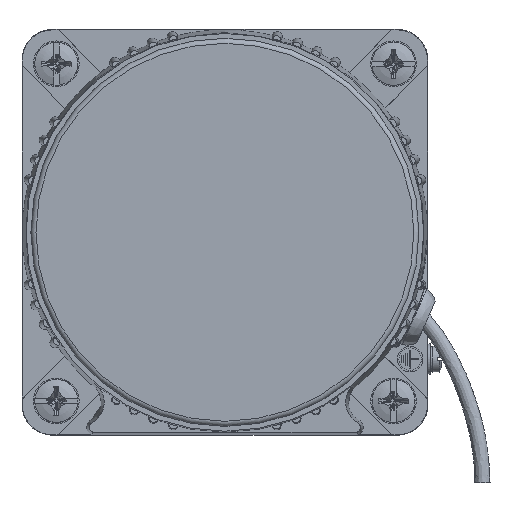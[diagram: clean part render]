
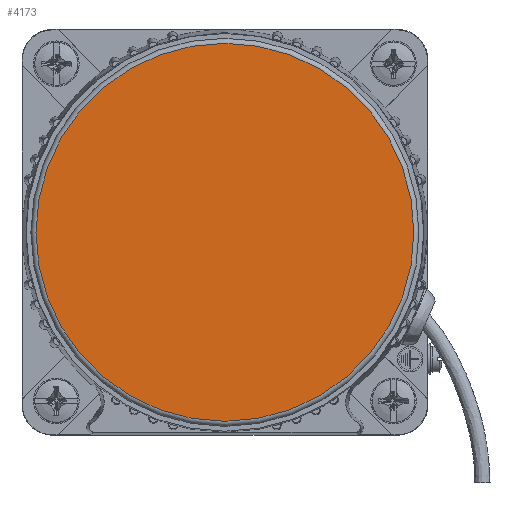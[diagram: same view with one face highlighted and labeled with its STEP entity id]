
A CAD part, left-side view. The second image highlights one B-rep face of the part: STEP entity #4173.
In plain terms, the highlighted planar face has unit normal (-1, 0, 0).
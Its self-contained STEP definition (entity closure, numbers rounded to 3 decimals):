
#4173=ADVANCED_FACE('',(#5292),#4834,.F.);
#4834=PLANE('',#15430);
#5292=FACE_OUTER_BOUND('',#6128,.T.);
#6128=EDGE_LOOP('',(#8292));
#8292=ORIENTED_EDGE('',*,*,#12482,.T.);
#11064=VERTEX_POINT('',#22058);
#12482=EDGE_CURVE('',#11064,#11064,#14564,.T.);
#14564=CIRCLE('',#15173,37.25);
#15173=AXIS2_PLACEMENT_3D('',#22057,#16465,#16466);
#15430=AXIS2_PLACEMENT_3D('',#29527,#17088,#17089);
#16465=DIRECTION('',(-1.,0.,0.));
#16466=DIRECTION('',(0.,0.,-1.));
#17088=DIRECTION('',(1.,0.,0.));
#17089=DIRECTION('',(0.,0.,-1.));
#22057=CARTESIAN_POINT('',(-86.,40.,40.));
#22058=CARTESIAN_POINT('',(-86.,40.,2.75));
#29527=CARTESIAN_POINT('',(-86.,40.,78.25));
